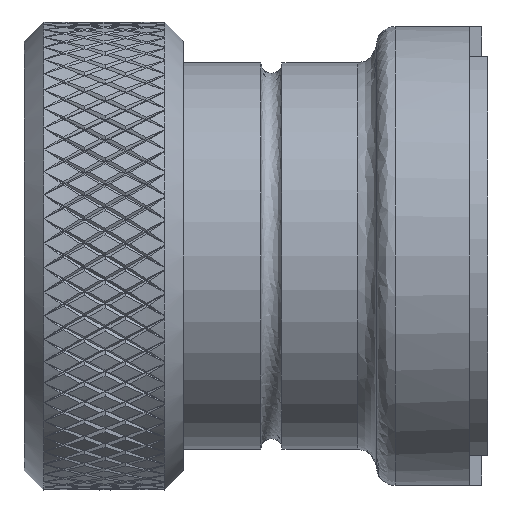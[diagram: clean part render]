
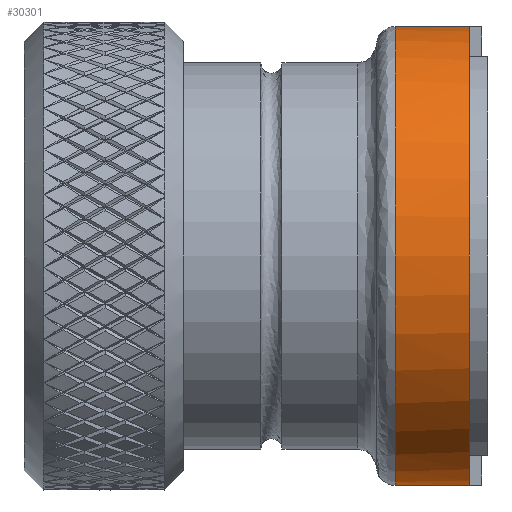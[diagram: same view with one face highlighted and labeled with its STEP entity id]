
A CAD part, left-side view. The second image highlights one B-rep face of the part: STEP entity #30301.
In plain terms, the highlighted cylindrical face has radius 18.86 mm (diameter 37.719 mm), a partial arc.
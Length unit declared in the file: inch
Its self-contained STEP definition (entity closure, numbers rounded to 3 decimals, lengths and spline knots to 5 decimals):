
#41 = DIRECTION ( 'NONE',  ( 0., 1., 0. ) ) ;
#82 = CARTESIAN_POINT ( 'NONE',  ( -0.026, 2.074, -0.74204 ) ) ;
#108 = AXIS2_PLACEMENT_3D ( 'NONE', #13537, #37282, #16942 ) ;
#299 = ORIENTED_EDGE ( 'NONE', *, *, #5315, .T. ) ;
#548 = VECTOR ( 'NONE', #27138, 39.37008 ) ;
#566 = DIRECTION ( 'NONE',  ( 0., 1., 0. ) ) ;
#1173 = CIRCLE ( 'NONE', #15956, 0.7425 ) ;
#1404 = EDGE_CURVE ( 'NONE', #25830, #21684, #10745, .T. ) ;
#3863 = VECTOR ( 'NONE', #566, 39.37008 ) ;
#4155 = CARTESIAN_POINT ( 'NONE',  ( 0., -1.48, 0. ) ) ;
#5122 = CARTESIAN_POINT ( 'NONE',  ( -0.026, -1.44, 0.74204 ) ) ;
#5315 = EDGE_CURVE ( 'NONE', #22068, #30844, #37712, .T. ) ;
#5683 = ORIENTED_EDGE ( 'NONE', *, *, #29561, .T. ) ;
#5722 = CARTESIAN_POINT ( 'NONE',  ( 0., 2.074, -0.7425 ) ) ;
#6545 = CARTESIAN_POINT ( 'NONE',  ( -0.026, -1.44, -0.74204 ) ) ;
#6769 = FACE_OUTER_BOUND ( 'NONE', #29159, .T. ) ;
#7554 = DIRECTION ( 'NONE',  ( 0., 0., 1. ) ) ;
#7598 = EDGE_CURVE ( 'NONE', #24447, #22068, #10596, .T. ) ;
#9517 = ORIENTED_EDGE ( 'NONE', *, *, #22205, .T. ) ;
#10256 = CARTESIAN_POINT ( 'NONE',  ( 0., -1.2, -0.7425 ) ) ;
#10507 = VERTEX_POINT ( 'NONE', #13101 ) ;
#10596 = LINE ( 'NONE', #82, #548 ) ;
#10745 = CIRCLE ( 'NONE', #34151, 0.7425 ) ;
#10936 = CARTESIAN_POINT ( 'NONE',  ( 0., 2.074, 0. ) ) ;
#12238 = CIRCLE ( 'NONE', #108, 0.7425 ) ;
#12502 = DIRECTION ( 'NONE',  ( 0., 1., 0. ) ) ;
#13101 = CARTESIAN_POINT ( 'NONE',  ( 0., -1.48, -0.7425 ) ) ;
#13537 = CARTESIAN_POINT ( 'NONE',  ( 0., -1.48, 0. ) ) ;
#14666 = CYLINDRICAL_SURFACE ( 'NONE', #43850, 0.7425 ) ;
#15956 = AXIS2_PLACEMENT_3D ( 'NONE', #4155, #27840, #7554 ) ;
#16942 = DIRECTION ( 'NONE',  ( 0., 0., 1. ) ) ;
#17951 = CARTESIAN_POINT ( 'NONE',  ( -0.026, -1.48, 0.74204 ) ) ;
#18011 = VECTOR ( 'NONE', #12502, 39.37008 ) ;
#18328 = DIRECTION ( 'NONE',  ( 0., -1., 0. ) ) ;
#20304 = CARTESIAN_POINT ( 'NONE',  ( 0., -1.44, 0. ) ) ;
#21392 = DIRECTION ( 'NONE',  ( 0., -1., 0. ) ) ;
#21684 = VERTEX_POINT ( 'NONE', #10256 ) ;
#21838 = LINE ( 'NONE', #24250, #3863 ) ;
#22068 = VERTEX_POINT ( 'NONE', #6545 ) ;
#22205 = EDGE_CURVE ( 'NONE', #10507, #24447, #1173, .T. ) ;
#22648 = EDGE_CURVE ( 'NONE', #41763, #25830, #21838, .T. ) ;
#22669 = VECTOR ( 'NONE', #21392, 39.37008 ) ;
#22744 = AXIS2_PLACEMENT_3D ( 'NONE', #20304, #41, #23697 ) ;
#23697 = DIRECTION ( 'NONE',  ( 0., 0., 1. ) ) ;
#24250 = CARTESIAN_POINT ( 'NONE',  ( 0., 2.074, 0.7425 ) ) ;
#24447 = VERTEX_POINT ( 'NONE', #27524 ) ;
#24581 = DIRECTION ( 'NONE',  ( 0., 1., 0. ) ) ;
#25830 = VERTEX_POINT ( 'NONE', #27693 ) ;
#26357 = CARTESIAN_POINT ( 'NONE',  ( -0.026, -1.48, 0.74204 ) ) ;
#27138 = DIRECTION ( 'NONE',  ( 0., 1., 0. ) ) ;
#27313 = EDGE_CURVE ( 'NONE', #43454, #41763, #12238, .T. ) ;
#27524 = CARTESIAN_POINT ( 'NONE',  ( -0.026, -1.48, -0.74204 ) ) ;
#27693 = CARTESIAN_POINT ( 'NONE',  ( 0., -1.2, 0.7425 ) ) ;
#27840 = DIRECTION ( 'NONE',  ( 0., 1., 0. ) ) ;
#29159 = EDGE_LOOP ( 'NONE', ( #42097, #9517, #37394, #299, #5683, #32742, #38863, #41863 ) ) ;
#29561 = EDGE_CURVE ( 'NONE', #30844, #43454, #40613, .T. ) ;
#30301 = ADVANCED_FACE ( 'NONE', ( #6769 ), #14666, .T. ) ;
#30844 = VERTEX_POINT ( 'NONE', #5122 ) ;
#32742 = ORIENTED_EDGE ( 'NONE', *, *, #27313, .T. ) ;
#34151 = AXIS2_PLACEMENT_3D ( 'NONE', #38590, #18328, #41959 ) ;
#34636 = DIRECTION ( 'NONE',  ( 0., 0., 1. ) ) ;
#34925 = CARTESIAN_POINT ( 'NONE',  ( 0., -1.48, 0.7425 ) ) ;
#36060 = LINE ( 'NONE', #5722, #18011 ) ;
#37282 = DIRECTION ( 'NONE',  ( 0., 1., 0. ) ) ;
#37394 = ORIENTED_EDGE ( 'NONE', *, *, #7598, .T. ) ;
#37712 = CIRCLE ( 'NONE', #22744, 0.7425 ) ;
#38590 = CARTESIAN_POINT ( 'NONE',  ( 0., -1.2, 0. ) ) ;
#38863 = ORIENTED_EDGE ( 'NONE', *, *, #22648, .T. ) ;
#40613 = LINE ( 'NONE', #17951, #22669 ) ;
#41763 = VERTEX_POINT ( 'NONE', #34925 ) ;
#41863 = ORIENTED_EDGE ( 'NONE', *, *, #1404, .T. ) ;
#41959 = DIRECTION ( 'NONE',  ( 0., 0., 1. ) ) ;
#42097 = ORIENTED_EDGE ( 'NONE', *, *, #42569, .F. ) ;
#42569 = EDGE_CURVE ( 'NONE', #10507, #21684, #36060, .T. ) ;
#43454 = VERTEX_POINT ( 'NONE', #26357 ) ;
#43850 = AXIS2_PLACEMENT_3D ( 'NONE', #10936, #24581, #34636 ) ;
